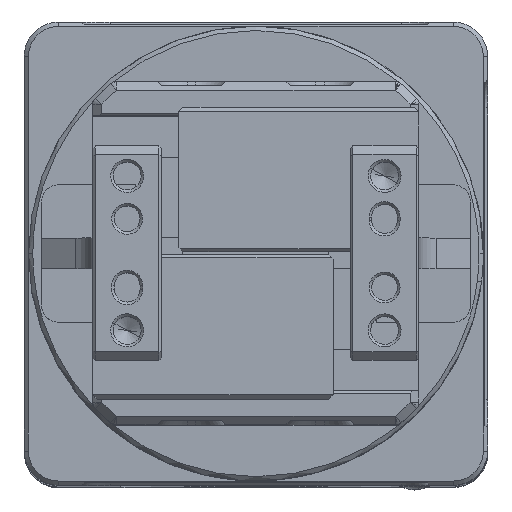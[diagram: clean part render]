
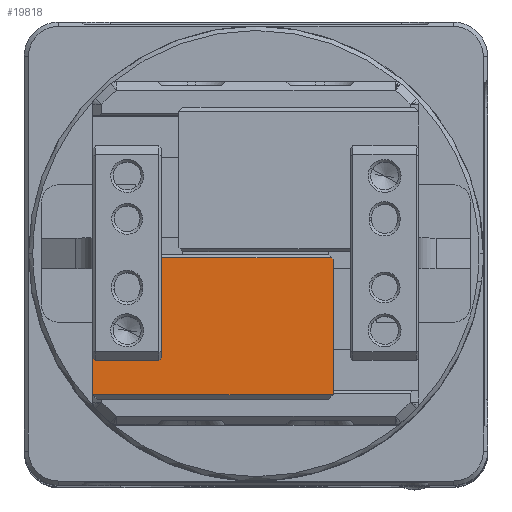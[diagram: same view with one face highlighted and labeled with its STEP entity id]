
A CAD part, top view. The second image highlights one B-rep face of the part: STEP entity #19818.
In plain terms, the highlighted planar face has unit normal (0, 0, 1) as drawn and (0, 1, 0) by its records, which use the part's own axes.
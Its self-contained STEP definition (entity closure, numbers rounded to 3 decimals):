
#19267=CARTESIAN_POINT('Vertex',(6.3,9.25,-3.8)) ;
#19274=CARTESIAN_POINT('Vertex',(13.7,9.25,-3.8)) ;
#19277=CARTESIAN_POINT('Line Origine',(10.,9.25,-3.8)) ;
#19323=CARTESIAN_POINT('Vertex',(6.,9.25,8.2)) ;
#19349=CARTESIAN_POINT('Vertex',(6.,9.25,-3.5)) ;
#19352=CARTESIAN_POINT('Line Origine',(6.,9.25,2.35)) ;
#19616=CARTESIAN_POINT('Vertex',(14.,9.25,-3.5)) ;
#19619=CARTESIAN_POINT('Line Origine',(13.85,9.25,-3.65)) ;
#19768=CARTESIAN_POINT('Axis2P3D Location',(0.,9.25,0.)) ;
#19774=CARTESIAN_POINT('Control Point',(6.3,9.25,-3.8)) ;
#19775=CARTESIAN_POINT('Control Point',(6.,9.25,-3.5)) ;
#19778=CARTESIAN_POINT('Control Point',(14.,9.25,-7.8)) ;
#19779=CARTESIAN_POINT('Control Point',(14.,9.25,-3.5)) ;
#19780=CARTESIAN_POINT('Vertex',(14.,9.25,-7.8)) ;
#19783=CARTESIAN_POINT('Line Origine',(0.,9.25,-7.8)) ;
#19787=CARTESIAN_POINT('Vertex',(-14.,9.25,-7.8)) ;
#19791=CARTESIAN_POINT('Control Point',(-14.,9.25,8.)) ;
#19792=CARTESIAN_POINT('Control Point',(-14.,9.25,-7.8)) ;
#19793=CARTESIAN_POINT('Vertex',(-14.,9.25,8.)) ;
#19797=CARTESIAN_POINT('Control Point',(-13.8,9.25,8.2)) ;
#19798=CARTESIAN_POINT('Control Point',(-14.,9.25,8.)) ;
#19799=CARTESIAN_POINT('Vertex',(-13.8,9.25,8.2)) ;
#19802=CARTESIAN_POINT('Line Origine',(-3.9,9.25,8.2)) ;
#19278=DIRECTION('Vector Direction',(-1.,0.,0.)) ;
#19353=DIRECTION('Vector Direction',(0.,0.,1.)) ;
#19620=DIRECTION('Vector Direction',(-0.707,0.,-0.707)) ;
#19769=DIRECTION('Axis2P3D Direction',(0.,1.,-0.)) ;
#19770=DIRECTION('Axis2P3D XDirection',(-1.,0.,0.)) ;
#19784=DIRECTION('Vector Direction',(-1.,0.,0.)) ;
#19803=DIRECTION('Vector Direction',(-1.,0.,0.)) ;
#19771=AXIS2_PLACEMENT_3D('Plane Axis2P3D',#19768,#19769,#19770) ;
#19808=ORIENTED_EDGE('',*,*,#19356,.T.) ;
#19809=ORIENTED_EDGE('',*,*,#19776,.T.) ;
#19810=ORIENTED_EDGE('',*,*,#19281,.T.) ;
#19811=ORIENTED_EDGE('',*,*,#19623,.T.) ;
#19812=ORIENTED_EDGE('',*,*,#19782,.T.) ;
#19813=ORIENTED_EDGE('',*,*,#19789,.T.) ;
#19814=ORIENTED_EDGE('',*,*,#19795,.T.) ;
#19815=ORIENTED_EDGE('',*,*,#19801,.T.) ;
#19816=ORIENTED_EDGE('',*,*,#19806,.T.) ;
#19279=VECTOR('Line Direction',#19278,1.) ;
#19354=VECTOR('Line Direction',#19353,1.) ;
#19621=VECTOR('Line Direction',#19620,1.) ;
#19785=VECTOR('Line Direction',#19784,1.) ;
#19804=VECTOR('Line Direction',#19803,1.) ;
#19818=ADVANCED_FACE('\X2\96F64EF651E04F554F53\X0\',(#19817),#19772,.T.) ;
#19773=B_SPLINE_CURVE_WITH_KNOTS('',1,(#19774,#19775),.UNSPECIFIED.,.F.,.U.,(2,2),(0.,0.424),.UNSPECIFIED.) ;
#19777=B_SPLINE_CURVE_WITH_KNOTS('',1,(#19778,#19779),.UNSPECIFIED.,.F.,.U.,(2,2),(0.,4.3),.UNSPECIFIED.) ;
#19790=B_SPLINE_CURVE_WITH_KNOTS('',1,(#19791,#19792),.UNSPECIFIED.,.F.,.U.,(2,2),(0.,15.8),.UNSPECIFIED.) ;
#19796=B_SPLINE_CURVE_WITH_KNOTS('',1,(#19797,#19798),.UNSPECIFIED.,.F.,.U.,(2,2),(0.424,0.707),.UNSPECIFIED.) ;
#19281=EDGE_CURVE('',#19268,#19275,#19280,.F.) ;
#19356=EDGE_CURVE('',#19324,#19350,#19355,.F.) ;
#19623=EDGE_CURVE('',#19275,#19617,#19622,.F.) ;
#19776=EDGE_CURVE('',#19350,#19268,#19773,.F.) ;
#19782=EDGE_CURVE('',#19617,#19781,#19777,.F.) ;
#19789=EDGE_CURVE('',#19781,#19788,#19786,.T.) ;
#19795=EDGE_CURVE('',#19788,#19794,#19790,.F.) ;
#19801=EDGE_CURVE('',#19794,#19800,#19796,.F.) ;
#19806=EDGE_CURVE('',#19800,#19324,#19805,.F.) ;
#19807=EDGE_LOOP('',(#19808,#19809,#19810,#19811,#19812,#19813,#19814,#19815,#19816)) ;
#19817=FACE_OUTER_BOUND('',#19807,.T.) ;
#19280=LINE('Line',#19277,#19279) ;
#19355=LINE('Line',#19352,#19354) ;
#19622=LINE('Line',#19619,#19621) ;
#19786=LINE('Line',#19783,#19785) ;
#19805=LINE('Line',#19802,#19804) ;
#19772=PLANE('Plane',#19771) ;
#19268=VERTEX_POINT('',#19267) ;
#19275=VERTEX_POINT('',#19274) ;
#19324=VERTEX_POINT('',#19323) ;
#19350=VERTEX_POINT('',#19349) ;
#19617=VERTEX_POINT('',#19616) ;
#19781=VERTEX_POINT('',#19780) ;
#19788=VERTEX_POINT('',#19787) ;
#19794=VERTEX_POINT('',#19793) ;
#19800=VERTEX_POINT('',#19799) ;
